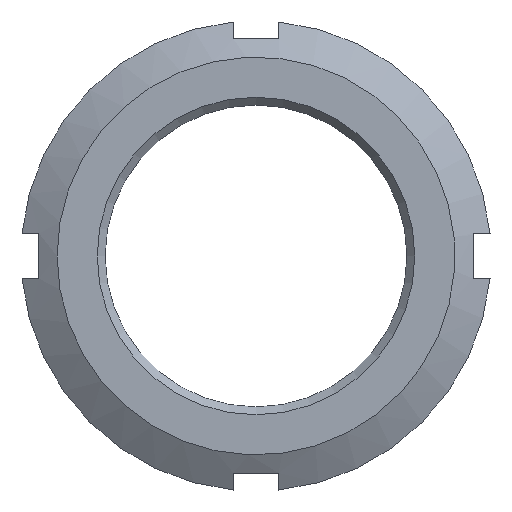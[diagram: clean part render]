
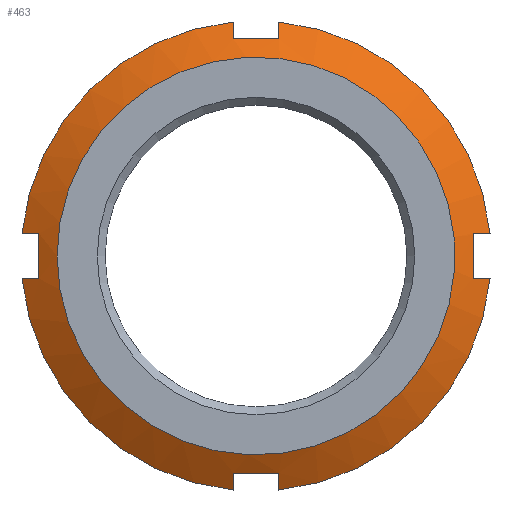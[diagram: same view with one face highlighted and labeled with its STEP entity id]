
A CAD part, left-side view. The second image highlights one B-rep face of the part: STEP entity #463.
In plain terms, the highlighted conical face has half-angle 60 degrees and reference radius 24 mm.
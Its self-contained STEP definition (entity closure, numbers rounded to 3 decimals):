
#15=(
BOUNDED_CURVE()
B_SPLINE_CURVE(2,(#701,#702,#703),.UNSPECIFIED.,.F.,.F.)
B_SPLINE_CURVE_WITH_KNOTS((3,3),(0.,0.217),.UNSPECIFIED.)
CURVE()
GEOMETRIC_REPRESENTATION_ITEM()
RATIONAL_B_SPLINE_CURVE((1.,1.001,1.))
REPRESENTATION_ITEM('')
);
#16=(
BOUNDED_CURVE()
B_SPLINE_CURVE(2,(#733,#734,#735),.UNSPECIFIED.,.F.,.F.)
B_SPLINE_CURVE_WITH_KNOTS((3,3),(0.,0.217),.UNSPECIFIED.)
CURVE()
GEOMETRIC_REPRESENTATION_ITEM()
RATIONAL_B_SPLINE_CURVE((1.,1.001,1.))
REPRESENTATION_ITEM('')
);
#17=(
BOUNDED_CURVE()
B_SPLINE_CURVE(2,(#765,#766,#767),.UNSPECIFIED.,.F.,.F.)
B_SPLINE_CURVE_WITH_KNOTS((3,3),(0.,0.217),.UNSPECIFIED.)
CURVE()
GEOMETRIC_REPRESENTATION_ITEM()
RATIONAL_B_SPLINE_CURVE((1.,1.001,1.))
REPRESENTATION_ITEM('')
);
#18=(
BOUNDED_CURVE()
B_SPLINE_CURVE(2,(#797,#798,#799),.UNSPECIFIED.,.F.,.F.)
B_SPLINE_CURVE_WITH_KNOTS((3,3),(0.,0.217),.UNSPECIFIED.)
CURVE()
GEOMETRIC_REPRESENTATION_ITEM()
RATIONAL_B_SPLINE_CURVE((1.,1.001,1.))
REPRESENTATION_ITEM('')
);
#19=(
BOUNDED_CURVE()
B_SPLINE_CURVE(2,(#805,#806,#807),.UNSPECIFIED.,.F.,.F.)
B_SPLINE_CURVE_WITH_KNOTS((3,3),(0.,0.217),.UNSPECIFIED.)
CURVE()
GEOMETRIC_REPRESENTATION_ITEM()
RATIONAL_B_SPLINE_CURVE((1.,1.001,1.))
REPRESENTATION_ITEM('')
);
#20=(
BOUNDED_CURVE()
B_SPLINE_CURVE(2,(#810,#811,#812),.UNSPECIFIED.,.F.,.F.)
B_SPLINE_CURVE_WITH_KNOTS((3,3),(0.745,1.268),
 .UNSPECIFIED.)
CURVE()
GEOMETRIC_REPRESENTATION_ITEM()
RATIONAL_B_SPLINE_CURVE((1.039,1.044,1.039))
REPRESENTATION_ITEM('')
);
#21=(
BOUNDED_CURVE()
B_SPLINE_CURVE(2,(#814,#815,#816),.UNSPECIFIED.,.F.,.F.)
B_SPLINE_CURVE_WITH_KNOTS((3,3),(0.745,1.268),
 .UNSPECIFIED.)
CURVE()
GEOMETRIC_REPRESENTATION_ITEM()
RATIONAL_B_SPLINE_CURVE((1.039,1.044,1.039))
REPRESENTATION_ITEM('')
);
#22=(
BOUNDED_CURVE()
B_SPLINE_CURVE(2,(#821,#822,#823),.UNSPECIFIED.,.F.,.F.)
B_SPLINE_CURVE_WITH_KNOTS((3,3),(0.,0.217),.UNSPECIFIED.)
CURVE()
GEOMETRIC_REPRESENTATION_ITEM()
RATIONAL_B_SPLINE_CURVE((1.,1.001,1.))
REPRESENTATION_ITEM('')
);
#23=(
BOUNDED_CURVE()
B_SPLINE_CURVE(2,(#826,#827,#828),.UNSPECIFIED.,.F.,.F.)
B_SPLINE_CURVE_WITH_KNOTS((3,3),(0.745,1.268),
 .UNSPECIFIED.)
CURVE()
GEOMETRIC_REPRESENTATION_ITEM()
RATIONAL_B_SPLINE_CURVE((1.039,1.044,1.039))
REPRESENTATION_ITEM('')
);
#24=(
BOUNDED_CURVE()
B_SPLINE_CURVE(2,(#841,#842,#843),.UNSPECIFIED.,.F.,.F.)
B_SPLINE_CURVE_WITH_KNOTS((3,3),(0.257,0.464),
 .UNSPECIFIED.)
CURVE()
GEOMETRIC_REPRESENTATION_ITEM()
RATIONAL_B_SPLINE_CURVE((1.002,1.002,1.))
REPRESENTATION_ITEM('')
);
#25=(
BOUNDED_CURVE()
B_SPLINE_CURVE(2,(#847,#848,#849),.UNSPECIFIED.,.F.,.F.)
B_SPLINE_CURVE_WITH_KNOTS((3,3),(0.745,1.268),
 .UNSPECIFIED.)
CURVE()
GEOMETRIC_REPRESENTATION_ITEM()
RATIONAL_B_SPLINE_CURVE((1.039,1.044,1.039))
REPRESENTATION_ITEM('')
);
#26=(
BOUNDED_CURVE()
B_SPLINE_CURVE(2,(#852,#853,#854),.UNSPECIFIED.,.F.,.F.)
B_SPLINE_CURVE_WITH_KNOTS((3,3),(0.,0.207),.UNSPECIFIED.)
CURVE()
GEOMETRIC_REPRESENTATION_ITEM()
RATIONAL_B_SPLINE_CURVE((1.,1.002,1.002))
REPRESENTATION_ITEM('')
);
#119=FACE_BOUND('',#177,.T.);
#145=FACE_OUTER_BOUND('',#176,.T.);
#176=EDGE_LOOP('',(#418,#419,#420,#421,#422,#423,#424,#425,#426,#427,#428,
#429,#430,#431,#432,#433));
#177=EDGE_LOOP('',(#434));
#181=CIRCLE('',#472,22.);
#191=CIRCLE('',#498,26.);
#192=CIRCLE('',#500,26.);
#193=CIRCLE('',#502,26.);
#194=CIRCLE('',#507,26.);
#198=VERTEX_POINT('',#635);
#218=VERTEX_POINT('',#698);
#219=VERTEX_POINT('',#700);
#222=VERTEX_POINT('',#730);
#223=VERTEX_POINT('',#732);
#226=VERTEX_POINT('',#762);
#227=VERTEX_POINT('',#764);
#230=VERTEX_POINT('',#794);
#231=VERTEX_POINT('',#796);
#232=VERTEX_POINT('',#802);
#233=VERTEX_POINT('',#804);
#234=VERTEX_POINT('',#818);
#235=VERTEX_POINT('',#820);
#236=VERTEX_POINT('',#830);
#237=VERTEX_POINT('',#834);
#238=VERTEX_POINT('',#840);
#239=VERTEX_POINT('',#846);
#243=EDGE_CURVE('',#198,#198,#181,.T.);
#265=EDGE_CURVE('',#219,#218,#15,.T.);
#271=EDGE_CURVE('',#223,#222,#16,.T.);
#277=EDGE_CURVE('',#227,#226,#17,.T.);
#283=EDGE_CURVE('',#231,#230,#18,.T.);
#286=EDGE_CURVE('',#233,#232,#19,.T.);
#288=EDGE_CURVE('',#222,#233,#20,.T.);
#289=EDGE_CURVE('',#226,#231,#21,.T.);
#291=EDGE_CURVE('',#235,#234,#22,.T.);
#293=EDGE_CURVE('',#218,#235,#23,.T.);
#294=EDGE_CURVE('',#236,#219,#191,.T.);
#297=EDGE_CURVE('',#230,#237,#192,.T.);
#298=EDGE_CURVE('',#234,#223,#193,.T.);
#299=EDGE_CURVE('',#238,#236,#24,.T.);
#301=EDGE_CURVE('',#239,#238,#25,.T.);
#303=EDGE_CURVE('',#237,#239,#26,.T.);
#304=EDGE_CURVE('',#232,#227,#194,.T.);
#418=ORIENTED_EDGE('',*,*,#286,.T.);
#419=ORIENTED_EDGE('',*,*,#304,.T.);
#420=ORIENTED_EDGE('',*,*,#277,.T.);
#421=ORIENTED_EDGE('',*,*,#289,.T.);
#422=ORIENTED_EDGE('',*,*,#283,.T.);
#423=ORIENTED_EDGE('',*,*,#297,.T.);
#424=ORIENTED_EDGE('',*,*,#303,.T.);
#425=ORIENTED_EDGE('',*,*,#301,.T.);
#426=ORIENTED_EDGE('',*,*,#299,.T.);
#427=ORIENTED_EDGE('',*,*,#294,.T.);
#428=ORIENTED_EDGE('',*,*,#265,.T.);
#429=ORIENTED_EDGE('',*,*,#293,.T.);
#430=ORIENTED_EDGE('',*,*,#291,.T.);
#431=ORIENTED_EDGE('',*,*,#298,.T.);
#432=ORIENTED_EDGE('',*,*,#271,.T.);
#433=ORIENTED_EDGE('',*,*,#288,.T.);
#434=ORIENTED_EDGE('',*,*,#243,.T.);
#437=CONICAL_SURFACE('',#508,24.,60.);
#463=ADVANCED_FACE('',(#145,#119),#437,.T.);
#472=AXIS2_PLACEMENT_3D('',#636,#523,#524);
#498=AXIS2_PLACEMENT_3D('',#831,#599,#600);
#500=AXIS2_PLACEMENT_3D('',#836,#605,#606);
#502=AXIS2_PLACEMENT_3D('',#838,#609,#610);
#507=AXIS2_PLACEMENT_3D('',#856,#621,#622);
#508=AXIS2_PLACEMENT_3D('',#857,#623,#624);
#523=DIRECTION('center_axis',(1.,0.,0.));
#524=DIRECTION('ref_axis',(0.,-1.,0.));
#599=DIRECTION('center_axis',(-1.,0.,0.));
#600=DIRECTION('ref_axis',(0.,-1.,0.));
#605=DIRECTION('center_axis',(-1.,0.,0.));
#606=DIRECTION('ref_axis',(0.,-1.,0.));
#609=DIRECTION('center_axis',(-1.,0.,0.));
#610=DIRECTION('ref_axis',(0.,-1.,0.));
#621=DIRECTION('center_axis',(-1.,0.,0.));
#622=DIRECTION('ref_axis',(0.,-1.,0.));
#623=DIRECTION('center_axis',(1.,0.,0.));
#624=DIRECTION('ref_axis',(0.,-1.,0.));
#635=CARTESIAN_POINT('',(0.,22.,0.));
#636=CARTESIAN_POINT('Origin',(0.,0.,0.));
#698=CARTESIAN_POINT('',(1.23,2.5,-24.));
#700=CARTESIAN_POINT('',(2.309,2.5,-25.88));
#701=CARTESIAN_POINT('Ctrl Pts',(2.309,2.5,-25.88));
#702=CARTESIAN_POINT('Ctrl Pts',(1.749,2.5,-24.905));
#703=CARTESIAN_POINT('Ctrl Pts',(1.23,2.5,-24.));
#730=CARTESIAN_POINT('',(1.23,-24.,-2.5));
#732=CARTESIAN_POINT('',(2.309,-25.88,-2.5));
#733=CARTESIAN_POINT('Ctrl Pts',(2.309,-25.88,-2.5));
#734=CARTESIAN_POINT('Ctrl Pts',(1.749,-24.905,-2.5));
#735=CARTESIAN_POINT('Ctrl Pts',(1.23,-24.,-2.5));
#762=CARTESIAN_POINT('',(1.23,-2.5,24.));
#764=CARTESIAN_POINT('',(2.309,-2.5,25.88));
#765=CARTESIAN_POINT('Ctrl Pts',(2.309,-2.5,25.88));
#766=CARTESIAN_POINT('Ctrl Pts',(1.749,-2.5,24.905));
#767=CARTESIAN_POINT('Ctrl Pts',(1.23,-2.5,24.));
#794=CARTESIAN_POINT('',(2.309,2.5,25.88));
#796=CARTESIAN_POINT('',(1.23,2.5,24.));
#797=CARTESIAN_POINT('Ctrl Pts',(1.23,2.5,24.));
#798=CARTESIAN_POINT('Ctrl Pts',(1.749,2.5,24.905));
#799=CARTESIAN_POINT('Ctrl Pts',(2.309,2.5,25.88));
#802=CARTESIAN_POINT('',(2.309,-25.88,2.5));
#804=CARTESIAN_POINT('',(1.23,-24.,2.5));
#805=CARTESIAN_POINT('Ctrl Pts',(1.23,-24.,2.5));
#806=CARTESIAN_POINT('Ctrl Pts',(1.749,-24.905,2.5));
#807=CARTESIAN_POINT('Ctrl Pts',(2.309,-25.88,2.5));
#810=CARTESIAN_POINT('Ctrl Pts',(1.23,-24.,-2.5));
#811=CARTESIAN_POINT('Ctrl Pts',(1.08,-24.,0.));
#812=CARTESIAN_POINT('Ctrl Pts',(1.23,-24.,2.5));
#814=CARTESIAN_POINT('Ctrl Pts',(1.23,-2.5,24.));
#815=CARTESIAN_POINT('Ctrl Pts',(1.08,0.,24.));
#816=CARTESIAN_POINT('Ctrl Pts',(1.23,2.5,24.));
#818=CARTESIAN_POINT('',(2.309,-2.5,-25.88));
#820=CARTESIAN_POINT('',(1.23,-2.5,-24.));
#821=CARTESIAN_POINT('Ctrl Pts',(1.23,-2.5,-24.));
#822=CARTESIAN_POINT('Ctrl Pts',(1.749,-2.5,-24.905));
#823=CARTESIAN_POINT('Ctrl Pts',(2.309,-2.5,-25.88));
#826=CARTESIAN_POINT('Ctrl Pts',(1.23,2.5,-24.));
#827=CARTESIAN_POINT('Ctrl Pts',(1.08,0.,
-24.));
#828=CARTESIAN_POINT('Ctrl Pts',(1.23,-2.5,-24.));
#830=CARTESIAN_POINT('',(2.309,25.88,-2.5));
#831=CARTESIAN_POINT('Origin',(2.309,0.,0.));
#834=CARTESIAN_POINT('',(2.309,25.88,2.5));
#836=CARTESIAN_POINT('Origin',(2.309,0.,0.));
#838=CARTESIAN_POINT('Origin',(2.309,0.,0.));
#840=CARTESIAN_POINT('',(1.23,24.,-2.5));
#841=CARTESIAN_POINT('Ctrl Pts',(1.23,24.,-2.5));
#842=CARTESIAN_POINT('Ctrl Pts',(1.749,24.905,-2.5));
#843=CARTESIAN_POINT('Ctrl Pts',(2.309,25.88,-2.5));
#846=CARTESIAN_POINT('',(1.23,24.,2.5));
#847=CARTESIAN_POINT('Ctrl Pts',(1.23,24.,2.5));
#848=CARTESIAN_POINT('Ctrl Pts',(1.08,24.,0.));
#849=CARTESIAN_POINT('Ctrl Pts',(1.23,24.,-2.5));
#852=CARTESIAN_POINT('Ctrl Pts',(2.309,25.88,2.5));
#853=CARTESIAN_POINT('Ctrl Pts',(1.749,24.905,2.5));
#854=CARTESIAN_POINT('Ctrl Pts',(1.23,24.,2.5));
#856=CARTESIAN_POINT('Origin',(2.309,0.,0.));
#857=CARTESIAN_POINT('Origin',(1.155,0.,0.));
